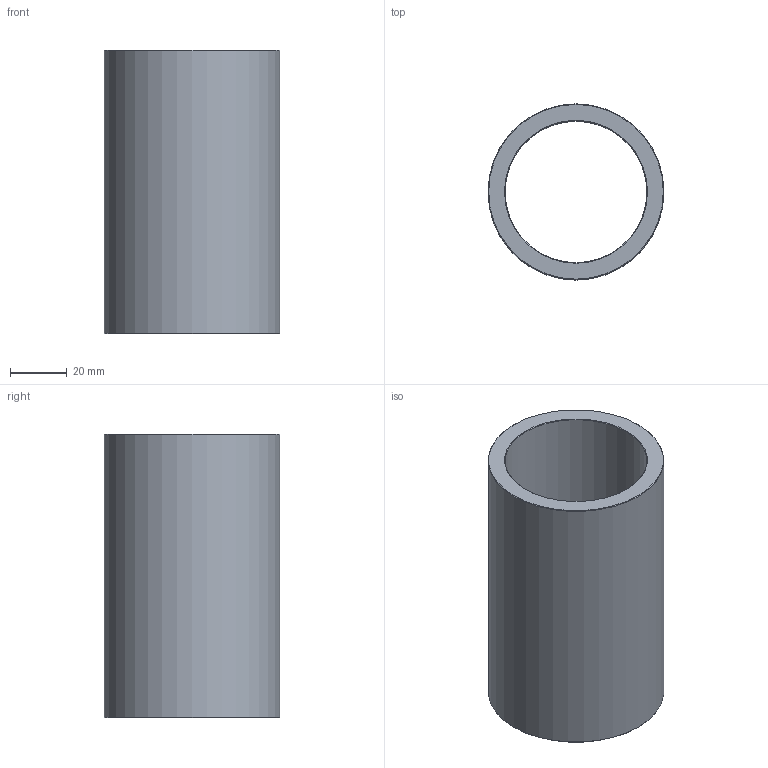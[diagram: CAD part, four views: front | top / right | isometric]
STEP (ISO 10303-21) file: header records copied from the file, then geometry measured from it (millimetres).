
FILE_DESCRIPTION(('STEP AP203'),'1');
FILE_NAME('C:/Users/Rodrigo/Desktop/GA6.050.100-1.step','2016-11-08T11:55:04',(' '),(' '),'Spatial InterOp 3D',' ',' ');
FILE_SCHEMA(('CONFIG_CONTROL_DESIGN'));
Length unit declared in the file: millimetre
Products named in the file (1): 1
Bounding box: 62 x 62 x 100 mm (x, y, z)
Volume: 105543.4 mm3; surface area: 37214.5 mm2
Topology: 1 solids, 1 shells, 8 faces, 14 edges, 8 vertices
Faces by surface type: cone 4, cylinder 2, plane 2
Full cylindrical faces by diameter (mm): 50 x1, 62 x1
Entity records: 212 total; most frequent: DIRECTION 34, CARTESIAN_POINT 25, AXIS2_PLACEMENT_3D 17, EDGE_LOOP 16, ORIENTED_EDGE 16, FACE_OUTER_BOUND 10, ADVANCED_FACE 8, EDGE_CURVE 8
